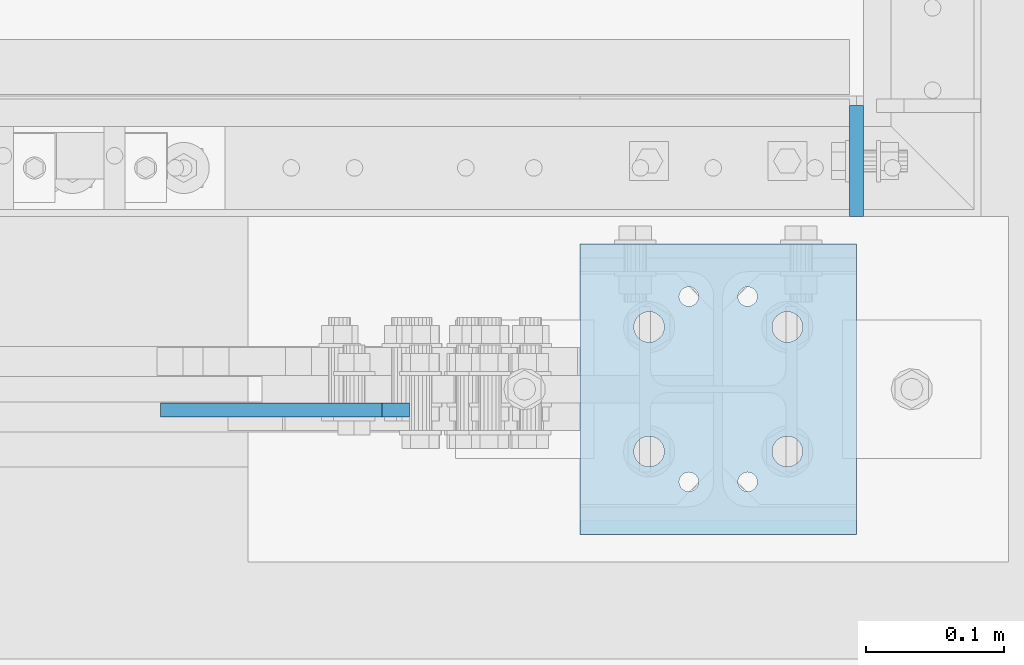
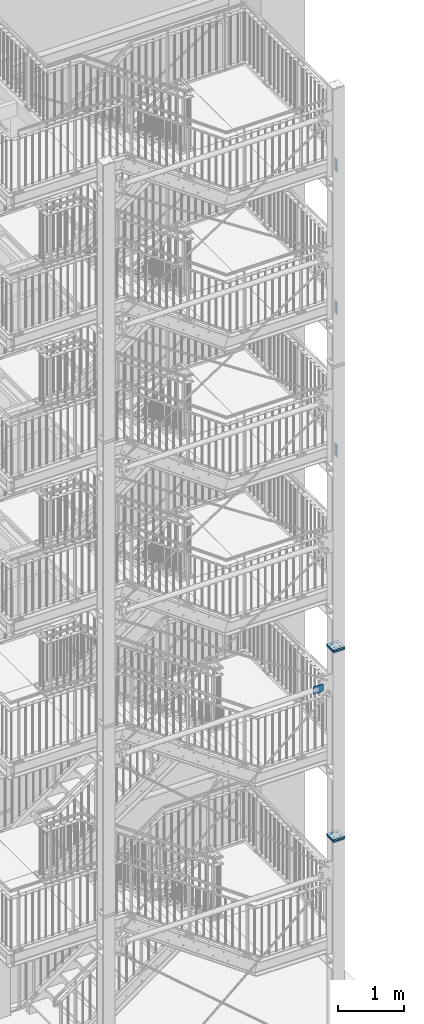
# One storey, part 199 of 817: 8 plates, 48 openings.
"""IFC2X3 building model written with IfcOpenShell, lengths in millimetres."""

from ifc_helpers import new_model, entity, si_unit, converted_unit, frame, frame_2d, origin, origin_with_axes, origin_2d_with_axis, place, context, project, spatial, polyline, circle, outline, extrude, material, layer, layer_set, element, save


model = new_model("IFC2X3")

# Units and contexts
model_context = context("Model", 3, precision=1e-09, world=origin_with_axes())
ifc_project = project(units=[si_unit("LENGTHUNIT", "METRE", prefix="MILLI"), si_unit("AREAUNIT", "SQUARE_METRE"), si_unit("VOLUMEUNIT", "CUBIC_METRE"), converted_unit("PLANEANGLEUNIT", "DEGREE", entity("IfcPlaneAngleMeasure", 0.01745329), si_unit("PLANEANGLEUNIT", "RADIAN"), dimensions=[0, 0, 0, 0, 0, 0, 0])], contexts=[model_context])

# Site, building, storey
site_placement = place(None, origin_with_axes())
site = spatial("IfcSite", under=ifc_project, at=site_placement, Name="Cnopf'sche Kinderklinik", CompositionType="ELEMENT")
building_placement = place(site_placement, origin_with_axes())
building = spatial("IfcBuilding", under=site, at=building_placement, Name="Struktur 1", CompositionType="ELEMENT")
storey_placement = place(building_placement, origin_with_axes())
storey = spatial("IfcBuildingStorey", under=building, at=storey_placement, Name="Default Storey", CompositionType="ELEMENT", Elevation=0.0)

# Plate, openings
ifc_material = material(Name="S235JR")
ifc_layer_1 = layer(ifc_material, 10.0)
ifc_layer_set_1 = layer_set([ifc_layer_1], Name="S235JR")
plate_1_placement = place(None, frame((8971.713402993, 4571.736971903, 11260.5000003), z_axis=(-1.0, 0.0, 0.0), x_axis=(0.0, 0.0, -1.0)))
plate_1 = element("IfcPlate", 1, at=plate_1_placement, inside=storey, material=ifc_layer_set_1, Name="Endplate", ObjectType="Endplate", context=model_context, shape_type="SweptSolid", body=[
    extrude(outline(polyline([(0.0, 0.0), (230.0, 0.0), (230.0, 80.0), (0.0, 80.0), (0.0, 0.0)])), origin_with_axes(), (0.0, 0.0, 1.0), 10.0),
])
opening_1_placement = place(plate_1_placement, frame((209.0, 17.5, -0.5), z_axis=(0.0, 0.0, 1.0), x_axis=(1.0, 0.0, 0.0)))
element("IfcOpeningElement", 2, at=opening_1_placement, cuts=plate_1, ObjectType="Opening", context=model_context, shape_type="SweptSolid", body=[
    extrude(circle(Radius=6.001, at=origin_2d_with_axis()), origin(), (0.0, 0.0, 1.0), 11.0),
])
opening_2_placement = place(plate_1_placement, frame((21.0, 17.5, -0.5), z_axis=(0.0, 0.0, 1.0), x_axis=(1.0, 0.0, 0.0)))
element("IfcOpeningElement", 3, at=opening_2_placement, cuts=plate_1, ObjectType="Opening", context=model_context, shape_type="SweptSolid", body=[
    extrude(circle(Radius=6.001, at=origin_2d_with_axis()), origin(), (0.0, 0.0, 1.0), 11.0),
])
opening_3_placement = place(plate_1_placement, frame((64.001, 40.0, -0.5), z_axis=(0.0, 0.0, -1.0), x_axis=(-1.0, 0.0, 0.0)))
element("IfcOpeningElement", 4, at=opening_3_placement, cuts=plate_1, ObjectType="Opening", context=model_context, shape_type="SweptSolid", body=[
    extrude(circle(Radius=9.001, at=frame_2d((9.001, 0.0), x_axis=(1.0, 0.0))), origin(), (0.0, 0.0, -1.0), 11.0),
])
opening_4_placement = place(plate_1_placement, frame((184.001, 40.0, -0.5), z_axis=(0.0, 0.0, -1.0), x_axis=(-1.0, 0.0, 0.0)))
element("IfcOpeningElement", 5, at=opening_4_placement, cuts=plate_1, ObjectType="Opening", context=model_context, shape_type="SweptSolid", body=[
    extrude(circle(Radius=9.001, at=frame_2d((9.001, 0.0), x_axis=(1.0, 0.0))), origin(), (0.0, 0.0, -1.0), 11.0),
])

plate_2_placement = place(None, frame((8971.713402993, 4571.736971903, 13891.5000001), z_axis=(-1.0, 0.0, 0.0), x_axis=(0.0, 0.0, -1.0)))
plate_2 = element("IfcPlate", 6, at=plate_2_placement, inside=storey, material=ifc_layer_set_1, Name="Endplate", ObjectType="Endplate", context=model_context, shape_type="SweptSolid", body=[
    extrude(outline(polyline([(0.0, 0.0), (230.0, 0.0), (230.0, 80.0), (0.0, 80.0), (0.0, 0.0)])), origin_with_axes(), (0.0, 0.0, 1.0), 10.0),
])
opening_5_placement = place(plate_2_placement, frame((209.0, 17.5, -0.5), z_axis=(0.0, 0.0, 1.0), x_axis=(1.0, 0.0, 0.0)))
element("IfcOpeningElement", 7, at=opening_5_placement, cuts=plate_2, ObjectType="Opening", context=model_context, shape_type="SweptSolid", body=[
    extrude(circle(Radius=6.001, at=origin_2d_with_axis()), origin(), (0.0, 0.0, 1.0), 11.0),
])
opening_6_placement = place(plate_2_placement, frame((21.0, 17.5, -0.5), z_axis=(0.0, 0.0, 1.0), x_axis=(1.0, 0.0, 0.0)))
element("IfcOpeningElement", 8, at=opening_6_placement, cuts=plate_2, ObjectType="Opening", context=model_context, shape_type="SweptSolid", body=[
    extrude(circle(Radius=6.001, at=origin_2d_with_axis()), origin(), (0.0, 0.0, 1.0), 11.0),
])
opening_7_placement = place(plate_2_placement, frame((64.001, 40.0, -0.5), z_axis=(0.0, 0.0, -1.0), x_axis=(-1.0, 0.0, 0.0)))
element("IfcOpeningElement", 9, at=opening_7_placement, cuts=plate_2, ObjectType="Opening", context=model_context, shape_type="SweptSolid", body=[
    extrude(circle(Radius=9.001, at=frame_2d((9.001, 0.0), x_axis=(1.0, 0.0))), origin(), (0.0, 0.0, -1.0), 11.0),
])
opening_8_placement = place(plate_2_placement, frame((184.001, 40.0, -0.5), z_axis=(0.0, 0.0, -1.0), x_axis=(-1.0, 0.0, 0.0)))
element("IfcOpeningElement", 10, at=opening_8_placement, cuts=plate_2, ObjectType="Opening", context=model_context, shape_type="SweptSolid", body=[
    extrude(circle(Radius=9.001, at=frame_2d((9.001, 0.0), x_axis=(1.0, 0.0))), origin(), (0.0, 0.0, -1.0), 11.0),
])

plate_3_placement = place(None, frame((8971.713402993, 4571.736971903, 16519.0000003), z_axis=(-1.0, 0.0, 0.0), x_axis=(0.0, 0.0, -1.0)))
plate_3 = element("IfcPlate", 11, at=plate_3_placement, inside=storey, material=ifc_layer_set_1, Name="Endplate", ObjectType="Endplate", context=model_context, shape_type="SweptSolid", body=[
    extrude(outline(polyline([(0.0, 0.0), (230.0, 0.0), (230.0, 80.0), (0.0, 80.0), (0.0, 0.0)])), origin_with_axes(), (0.0, 0.0, 1.0), 10.0),
])
opening_9_placement = place(plate_3_placement, frame((209.0, 17.5, -0.5), z_axis=(0.0, 0.0, 1.0), x_axis=(1.0, 0.0, 0.0)))
element("IfcOpeningElement", 12, at=opening_9_placement, cuts=plate_3, ObjectType="Opening", context=model_context, shape_type="SweptSolid", body=[
    extrude(circle(Radius=6.001, at=origin_2d_with_axis()), origin(), (0.0, 0.0, 1.0), 11.0),
])
opening_10_placement = place(plate_3_placement, frame((21.0, 17.5, -0.5), z_axis=(0.0, 0.0, 1.0), x_axis=(1.0, 0.0, 0.0)))
element("IfcOpeningElement", 13, at=opening_10_placement, cuts=plate_3, ObjectType="Opening", context=model_context, shape_type="SweptSolid", body=[
    extrude(circle(Radius=6.001, at=origin_2d_with_axis()), origin(), (0.0, 0.0, 1.0), 11.0),
])
opening_11_placement = place(plate_3_placement, frame((64.001, 40.0, -0.5), z_axis=(0.0, 0.0, -1.0), x_axis=(-1.0, 0.0, 0.0)))
element("IfcOpeningElement", 14, at=opening_11_placement, cuts=plate_3, ObjectType="Opening", context=model_context, shape_type="SweptSolid", body=[
    extrude(circle(Radius=9.001, at=frame_2d((9.001, 0.0), x_axis=(1.0, 0.0))), origin(), (0.0, 0.0, -1.0), 11.0),
])
opening_12_placement = place(plate_3_placement, frame((184.001, 40.0, -0.5), z_axis=(0.0, 0.0, -1.0), x_axis=(-1.0, 0.0, 0.0)))
element("IfcOpeningElement", 15, at=opening_12_placement, cuts=plate_3, ObjectType="Opening", context=model_context, shape_type="SweptSolid", body=[
    extrude(circle(Radius=9.001, at=frame_2d((9.001, 0.0), x_axis=(1.0, 0.0))), origin(), (0.0, 0.0, -1.0), 11.0),
])

ifc_layer_2 = layer(ifc_material, 25.0)
ifc_layer_set_2 = layer_set([ifc_layer_2], Name="S235JR")
plate_4_placement = place(None, frame((8866.713402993, 4366.736971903, 4150.0), z_axis=(0.0, 0.0, -1.0), x_axis=(0.0, -1.0, 0.0)))
plate_4 = element("IfcPlate", 16, at=plate_4_placement, inside=storey, material=ifc_layer_set_2, Name="Endplate#1", ObjectType="Endplate#1", context=model_context, shape_type="SweptSolid", body=[
    extrude(outline(polyline([(-105.0, -100.0), (105.0, -100.0), (105.0, 100.0), (-105.0, 100.0), (-105.0, -100.0)])), origin_with_axes(), (0.0, 0.0, 1.0), 25.0),
])
opening_13_placement = place(plate_4_placement, frame((67.0, 21.25, -0.5), z_axis=(0.0, 0.0, 1.0), x_axis=(1.0, 0.0, 0.0)))
element("IfcOpeningElement", 17, at=opening_13_placement, cuts=plate_4, ObjectType="Opening", context=model_context, shape_type="SweptSolid", body=[
    extrude(circle(Radius=7.001, at=origin_2d_with_axis()), origin(), (0.0, 0.0, 1.0), 26.0),
])
opening_14_placement = place(plate_4_placement, frame((-67.0, 21.25, -0.5), z_axis=(0.0, 0.0, 1.0), x_axis=(1.0, 0.0, 0.0)))
element("IfcOpeningElement", 18, at=opening_14_placement, cuts=plate_4, ObjectType="Opening", context=model_context, shape_type="SweptSolid", body=[
    extrude(circle(Radius=7.001, at=origin_2d_with_axis()), origin(), (0.0, 0.0, 1.0), 26.0),
])
opening_15_placement = place(plate_4_placement, frame((-67.0, -21.25, -0.5), z_axis=(0.0, 0.0, 1.0), x_axis=(1.0, 0.0, 0.0)))
element("IfcOpeningElement", 19, at=opening_15_placement, cuts=plate_4, ObjectType="Opening", context=model_context, shape_type="SweptSolid", body=[
    extrude(circle(Radius=7.001, at=origin_2d_with_axis()), origin(), (0.0, 0.0, 1.0), 26.0),
])
opening_16_placement = place(plate_4_placement, frame((67.0, -21.25, -0.5), z_axis=(0.0, 0.0, 1.0), x_axis=(1.0, 0.0, 0.0)))
element("IfcOpeningElement", 20, at=opening_16_placement, cuts=plate_4, ObjectType="Opening", context=model_context, shape_type="SweptSolid", body=[
    extrude(circle(Radius=7.001, at=origin_2d_with_axis()), origin(), (0.0, 0.0, 1.0), 26.0),
])
opening_17_placement = place(plate_4_placement, frame((45.0, -38.999, 25.5), z_axis=(0.0, 0.0, 1.0), x_axis=(1.0, 0.0, 0.0)))
element("IfcOpeningElement", 21, at=opening_17_placement, cuts=plate_4, ObjectType="Opening", context=model_context, shape_type="SweptSolid", body=[
    extrude(circle(Radius=11.001, at=frame_2d((0.0, -11.001), x_axis=(1.0, 0.0))), origin(), (0.0, 0.0, -1.0), 26.0),
])
opening_18_placement = place(plate_4_placement, frame((-45.0, -38.999, 25.5), z_axis=(0.0, 0.0, 1.0), x_axis=(1.0, 0.0, 0.0)))
element("IfcOpeningElement", 22, at=opening_18_placement, cuts=plate_4, ObjectType="Opening", context=model_context, shape_type="SweptSolid", body=[
    extrude(circle(Radius=11.001, at=frame_2d((0.0, -11.001), x_axis=(1.0, 0.0))), origin(), (0.0, 0.0, -1.0), 26.0),
])
opening_19_placement = place(plate_4_placement, frame((45.0, 61.001, 25.5), z_axis=(0.0, 0.0, 1.0), x_axis=(1.0, 0.0, 0.0)))
element("IfcOpeningElement", 23, at=opening_19_placement, cuts=plate_4, ObjectType="Opening", context=model_context, shape_type="SweptSolid", body=[
    extrude(circle(Radius=11.001, at=frame_2d((0.0, -11.001), x_axis=(1.0, 0.0))), origin(), (0.0, 0.0, -1.0), 26.0),
])
opening_20_placement = place(plate_4_placement, frame((-45.0, 61.001, 25.5), z_axis=(0.0, 0.0, 1.0), x_axis=(1.0, 0.0, 0.0)))
element("IfcOpeningElement", 24, at=opening_20_placement, cuts=plate_4, ObjectType="Opening", context=model_context, shape_type="SweptSolid", body=[
    extrude(circle(Radius=11.001, at=frame_2d((0.0, -11.001), x_axis=(1.0, 0.0))), origin(), (0.0, 0.0, -1.0), 26.0),
])

plate_5_placement = place(None, frame((8866.713402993, 4366.736971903, 4175.0), z_axis=(0.0, 0.0, -1.0), x_axis=(0.0, -1.0, 0.0)))
plate_5 = element("IfcPlate", 25, at=plate_5_placement, inside=storey, material=ifc_layer_set_2, Name="Endplate#2", ObjectType="Endplate#2", context=model_context, shape_type="SweptSolid", body=[
    extrude(outline(polyline([(-105.0, -100.0), (105.0, -100.0), (105.0, 100.0), (-105.0, 100.0), (-105.0, -100.0)])), origin_with_axes(), (0.0, 0.0, 1.0), 25.0),
])
opening_21_placement = place(plate_5_placement, frame((67.0, 21.25, 25.5), z_axis=(0.0, 0.0, -1.0), x_axis=(-1.0, 0.0, 0.0)))
element("IfcOpeningElement", 26, at=opening_21_placement, cuts=plate_5, ObjectType="Opening", context=model_context, shape_type="SweptSolid", body=[
    extrude(circle(Radius=7.001, at=origin_2d_with_axis()), origin(), (0.0, 0.0, 1.0), 26.0),
])
opening_22_placement = place(plate_5_placement, frame((-67.0, 21.25, 25.5), z_axis=(0.0, 0.0, -1.0), x_axis=(-1.0, 0.0, 0.0)))
element("IfcOpeningElement", 27, at=opening_22_placement, cuts=plate_5, ObjectType="Opening", context=model_context, shape_type="SweptSolid", body=[
    extrude(circle(Radius=7.001, at=origin_2d_with_axis()), origin(), (0.0, 0.0, 1.0), 26.0),
])
opening_23_placement = place(plate_5_placement, frame((-67.0, -21.25, 25.5), z_axis=(0.0, 0.0, -1.0), x_axis=(-1.0, 0.0, 0.0)))
element("IfcOpeningElement", 28, at=opening_23_placement, cuts=plate_5, ObjectType="Opening", context=model_context, shape_type="SweptSolid", body=[
    extrude(circle(Radius=7.001, at=origin_2d_with_axis()), origin(), (0.0, 0.0, 1.0), 26.0),
])
opening_24_placement = place(plate_5_placement, frame((67.0, -21.25, 25.5), z_axis=(0.0, 0.0, -1.0), x_axis=(-1.0, 0.0, 0.0)))
element("IfcOpeningElement", 29, at=opening_24_placement, cuts=plate_5, ObjectType="Opening", context=model_context, shape_type="SweptSolid", body=[
    extrude(circle(Radius=7.001, at=origin_2d_with_axis()), origin(), (0.0, 0.0, 1.0), 26.0),
])
opening_25_placement = place(plate_5_placement, frame((45.0, -38.999, 25.5), z_axis=(0.0, 0.0, 1.0), x_axis=(1.0, 0.0, 0.0)))
element("IfcOpeningElement", 30, at=opening_25_placement, cuts=plate_5, ObjectType="Opening", context=model_context, shape_type="SweptSolid", body=[
    extrude(circle(Radius=11.001, at=frame_2d((0.0, -11.001), x_axis=(1.0, 0.0))), origin(), (0.0, 0.0, -1.0), 26.0),
])
opening_26_placement = place(plate_5_placement, frame((-45.0, -38.999, 25.5), z_axis=(0.0, 0.0, 1.0), x_axis=(1.0, 0.0, 0.0)))
element("IfcOpeningElement", 31, at=opening_26_placement, cuts=plate_5, ObjectType="Opening", context=model_context, shape_type="SweptSolid", body=[
    extrude(circle(Radius=11.001, at=frame_2d((0.0, -11.001), x_axis=(1.0, 0.0))), origin(), (0.0, 0.0, -1.0), 26.0),
])
opening_27_placement = place(plate_5_placement, frame((45.0, 61.001, 25.5), z_axis=(0.0, 0.0, 1.0), x_axis=(1.0, 0.0, 0.0)))
element("IfcOpeningElement", 32, at=opening_27_placement, cuts=plate_5, ObjectType="Opening", context=model_context, shape_type="SweptSolid", body=[
    extrude(circle(Radius=11.001, at=frame_2d((0.0, -11.001), x_axis=(1.0, 0.0))), origin(), (0.0, 0.0, -1.0), 26.0),
])
opening_28_placement = place(plate_5_placement, frame((-45.0, 61.001, 25.5), z_axis=(0.0, 0.0, 1.0), x_axis=(1.0, 0.0, 0.0)))
element("IfcOpeningElement", 33, at=opening_28_placement, cuts=plate_5, ObjectType="Opening", context=model_context, shape_type="SweptSolid", body=[
    extrude(circle(Radius=11.001, at=frame_2d((0.0, -11.001), x_axis=(1.0, 0.0))), origin(), (0.0, 0.0, -1.0), 26.0),
])

plate_6_placement = place(None, frame((8866.713402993, 4366.736971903, 7650.0), z_axis=(0.0, 0.0, -1.0), x_axis=(0.0, -1.0, 0.0)))
plate_6 = element("IfcPlate", 34, at=plate_6_placement, inside=storey, material=ifc_layer_set_2, Name="Endplate#1", ObjectType="Endplate#1", context=model_context, shape_type="SweptSolid", body=[
    extrude(outline(polyline([(-105.0, -100.0), (105.0, -100.0), (105.0, 100.0), (-105.0, 100.0), (-105.0, -100.0)])), origin_with_axes(), (0.0, 0.0, 1.0), 25.0),
])
opening_29_placement = place(plate_6_placement, frame((67.0, 21.25, -0.5), z_axis=(0.0, 0.0, 1.0), x_axis=(1.0, 0.0, 0.0)))
element("IfcOpeningElement", 35, at=opening_29_placement, cuts=plate_6, ObjectType="Opening", context=model_context, shape_type="SweptSolid", body=[
    extrude(circle(Radius=7.001, at=origin_2d_with_axis()), origin(), (0.0, 0.0, 1.0), 26.0),
])
opening_30_placement = place(plate_6_placement, frame((-67.0, 21.25, -0.5), z_axis=(0.0, 0.0, 1.0), x_axis=(1.0, 0.0, 0.0)))
element("IfcOpeningElement", 36, at=opening_30_placement, cuts=plate_6, ObjectType="Opening", context=model_context, shape_type="SweptSolid", body=[
    extrude(circle(Radius=7.001, at=origin_2d_with_axis()), origin(), (0.0, 0.0, 1.0), 26.0),
])
opening_31_placement = place(plate_6_placement, frame((-67.0, -21.25, -0.5), z_axis=(0.0, 0.0, 1.0), x_axis=(1.0, 0.0, 0.0)))
element("IfcOpeningElement", 37, at=opening_31_placement, cuts=plate_6, ObjectType="Opening", context=model_context, shape_type="SweptSolid", body=[
    extrude(circle(Radius=7.001, at=origin_2d_with_axis()), origin(), (0.0, 0.0, 1.0), 26.0),
])
opening_32_placement = place(plate_6_placement, frame((67.0, -21.25, -0.5), z_axis=(0.0, 0.0, 1.0), x_axis=(1.0, 0.0, 0.0)))
element("IfcOpeningElement", 38, at=opening_32_placement, cuts=plate_6, ObjectType="Opening", context=model_context, shape_type="SweptSolid", body=[
    extrude(circle(Radius=7.001, at=origin_2d_with_axis()), origin(), (0.0, 0.0, 1.0), 26.0),
])
opening_33_placement = place(plate_6_placement, frame((45.0, -38.999, 25.5), z_axis=(0.0, 0.0, 1.0), x_axis=(1.0, 0.0, 0.0)))
element("IfcOpeningElement", 39, at=opening_33_placement, cuts=plate_6, ObjectType="Opening", context=model_context, shape_type="SweptSolid", body=[
    extrude(circle(Radius=11.001, at=frame_2d((0.0, -11.001), x_axis=(1.0, 0.0))), origin(), (0.0, 0.0, -1.0), 26.0),
])
opening_34_placement = place(plate_6_placement, frame((-45.0, -38.999, 25.5), z_axis=(0.0, 0.0, 1.0), x_axis=(1.0, 0.0, 0.0)))
element("IfcOpeningElement", 40, at=opening_34_placement, cuts=plate_6, ObjectType="Opening", context=model_context, shape_type="SweptSolid", body=[
    extrude(circle(Radius=11.001, at=frame_2d((0.0, -11.001), x_axis=(1.0, 0.0))), origin(), (0.0, 0.0, -1.0), 26.0),
])
opening_35_placement = place(plate_6_placement, frame((45.0, 61.001, 25.5), z_axis=(0.0, 0.0, 1.0), x_axis=(1.0, 0.0, 0.0)))
element("IfcOpeningElement", 41, at=opening_35_placement, cuts=plate_6, ObjectType="Opening", context=model_context, shape_type="SweptSolid", body=[
    extrude(circle(Radius=11.001, at=frame_2d((0.0, -11.001), x_axis=(1.0, 0.0))), origin(), (0.0, 0.0, -1.0), 26.0),
])
opening_36_placement = place(plate_6_placement, frame((-45.0, 61.001, 25.5), z_axis=(0.0, 0.0, 1.0), x_axis=(1.0, 0.0, 0.0)))
element("IfcOpeningElement", 42, at=opening_36_placement, cuts=plate_6, ObjectType="Opening", context=model_context, shape_type="SweptSolid", body=[
    extrude(circle(Radius=11.001, at=frame_2d((0.0, -11.001), x_axis=(1.0, 0.0))), origin(), (0.0, 0.0, -1.0), 26.0),
])

plate_7_placement = place(None, frame((8866.713402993, 4366.736971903, 7675.0), z_axis=(0.0, 0.0, -1.0), x_axis=(0.0, -1.0, 0.0)))
plate_7 = element("IfcPlate", 43, at=plate_7_placement, inside=storey, material=ifc_layer_set_2, Name="Endplate#2", ObjectType="Endplate#2", context=model_context, shape_type="SweptSolid", body=[
    extrude(outline(polyline([(-105.0, -100.0), (105.0, -100.0), (105.0, 100.0), (-105.0, 100.0), (-105.0, -100.0)])), origin_with_axes(), (0.0, 0.0, 1.0), 25.0),
])
opening_37_placement = place(plate_7_placement, frame((67.0, 21.25, 25.5), z_axis=(0.0, 0.0, -1.0), x_axis=(-1.0, 0.0, 0.0)))
element("IfcOpeningElement", 44, at=opening_37_placement, cuts=plate_7, ObjectType="Opening", context=model_context, shape_type="SweptSolid", body=[
    extrude(circle(Radius=7.001, at=origin_2d_with_axis()), origin(), (0.0, 0.0, 1.0), 26.0),
])
opening_38_placement = place(plate_7_placement, frame((-67.0, 21.25, 25.5), z_axis=(0.0, 0.0, -1.0), x_axis=(-1.0, 0.0, 0.0)))
element("IfcOpeningElement", 45, at=opening_38_placement, cuts=plate_7, ObjectType="Opening", context=model_context, shape_type="SweptSolid", body=[
    extrude(circle(Radius=7.001, at=origin_2d_with_axis()), origin(), (0.0, 0.0, 1.0), 26.0),
])
opening_39_placement = place(plate_7_placement, frame((-67.0, -21.25, 25.5), z_axis=(0.0, 0.0, -1.0), x_axis=(-1.0, 0.0, 0.0)))
element("IfcOpeningElement", 46, at=opening_39_placement, cuts=plate_7, ObjectType="Opening", context=model_context, shape_type="SweptSolid", body=[
    extrude(circle(Radius=7.001, at=origin_2d_with_axis()), origin(), (0.0, 0.0, 1.0), 26.0),
])
opening_40_placement = place(plate_7_placement, frame((67.0, -21.25, 25.5), z_axis=(0.0, 0.0, -1.0), x_axis=(-1.0, 0.0, 0.0)))
element("IfcOpeningElement", 47, at=opening_40_placement, cuts=plate_7, ObjectType="Opening", context=model_context, shape_type="SweptSolid", body=[
    extrude(circle(Radius=7.001, at=origin_2d_with_axis()), origin(), (0.0, 0.0, 1.0), 26.0),
])
opening_41_placement = place(plate_7_placement, frame((45.0, -38.999, 25.5), z_axis=(0.0, 0.0, 1.0), x_axis=(1.0, 0.0, 0.0)))
element("IfcOpeningElement", 48, at=opening_41_placement, cuts=plate_7, ObjectType="Opening", context=model_context, shape_type="SweptSolid", body=[
    extrude(circle(Radius=11.001, at=frame_2d((0.0, -11.001), x_axis=(1.0, 0.0))), origin(), (0.0, 0.0, -1.0), 26.0),
])
opening_42_placement = place(plate_7_placement, frame((-45.0, -38.999, 25.5), z_axis=(0.0, 0.0, 1.0), x_axis=(1.0, 0.0, 0.0)))
element("IfcOpeningElement", 49, at=opening_42_placement, cuts=plate_7, ObjectType="Opening", context=model_context, shape_type="SweptSolid", body=[
    extrude(circle(Radius=11.001, at=frame_2d((0.0, -11.001), x_axis=(1.0, 0.0))), origin(), (0.0, 0.0, -1.0), 26.0),
])
opening_43_placement = place(plate_7_placement, frame((45.0, 61.001, 25.5), z_axis=(0.0, 0.0, 1.0), x_axis=(1.0, 0.0, 0.0)))
element("IfcOpeningElement", 50, at=opening_43_placement, cuts=plate_7, ObjectType="Opening", context=model_context, shape_type="SweptSolid", body=[
    extrude(circle(Radius=11.001, at=frame_2d((0.0, -11.001), x_axis=(1.0, 0.0))), origin(), (0.0, 0.0, -1.0), 26.0),
])
opening_44_placement = place(plate_7_placement, frame((-45.0, 61.001, 25.5), z_axis=(0.0, 0.0, 1.0), x_axis=(1.0, 0.0, 0.0)))
element("IfcOpeningElement", 51, at=opening_44_placement, cuts=plate_7, ObjectType="Opening", context=model_context, shape_type="SweptSolid", body=[
    extrude(circle(Radius=11.001, at=frame_2d((0.0, -11.001), x_axis=(1.0, 0.0))), origin(), (0.0, 0.0, -1.0), 26.0),
])

plate_8_placement = place(None, frame((8553.463402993, 4356.736971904, 6984.999996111), z_axis=(0.0, -1.0, 0.0), x_axis=(1.0, 0.0, 0.0)))
plate_8 = element("IfcPlate", 52, at=plate_8_placement, inside=storey, material=ifc_layer_set_1, Name="-", ObjectType="-", context=model_context, shape_type="SweptSolid", body=[
    extrude(outline(polyline([(-90.0, -70.0), (90.0, -70.0), (90.0, 70.0), (-90.0, 70.0), (-90.0, -70.0)])), origin_with_axes(), (0.0, 0.0, 1.0), 10.0),
])
opening_45_placement = place(plate_8_placement, frame((0.0, 0.0, -0.01), z_axis=(0.0, 0.0, 1.0), x_axis=(1.0, 0.0, 0.0)))
element("IfcOpeningElement", 53, at=opening_45_placement, cuts=plate_8, ObjectType="Opening", context=model_context, shape_type="SweptSolid", body=[
    extrude(outline(polyline([(90.0, -70.0), (90.0, -50.0), (70.0, -70.0), (90.0, -70.0)])), origin(), (0.0, 0.0, 1.0), 10.02),
])
opening_46_placement = place(plate_8_placement, frame((0.0, 0.0, -0.01), z_axis=(0.0, 0.0, 1.0), x_axis=(1.0, 0.0, 0.0)))
element("IfcOpeningElement", 54, at=opening_46_placement, cuts=plate_8, ObjectType="Opening", context=model_context, shape_type="SweptSolid", body=[
    extrude(outline(polyline([(90.0, 70.0), (70.0, 70.0), (90.0, 50.0), (90.0, 70.0)])), origin(), (0.0, 0.0, 1.0), 10.02),
])
opening_47_placement = place(plate_8_placement, frame((50.0, 0.0, -0.5), z_axis=(0.0, 0.0, 1.0), x_axis=(1.0, 0.0, 0.0)))
element("IfcOpeningElement", 55, at=opening_47_placement, cuts=plate_8, ObjectType="Opening", context=model_context, shape_type="SweptSolid", body=[
    extrude(circle(Radius=9.001, at=frame_2d((0.0, 30.0), x_axis=(1.0, 0.0))), origin(), (0.0, 0.0, 1.0), 11.0),
])
opening_48_placement = place(plate_8_placement, frame((50.0, 0.0, -0.5), z_axis=(0.0, 0.0, 1.0), x_axis=(1.0, 0.0, 0.0)))
element("IfcOpeningElement", 56, at=opening_48_placement, cuts=plate_8, ObjectType="Opening", context=model_context, shape_type="SweptSolid", body=[
    extrude(circle(Radius=9.001, at=frame_2d((0.0, -30.0), x_axis=(1.0, 0.0))), origin(), (0.0, 0.0, 1.0), 11.0),
])

save(model, "model.ifc")
